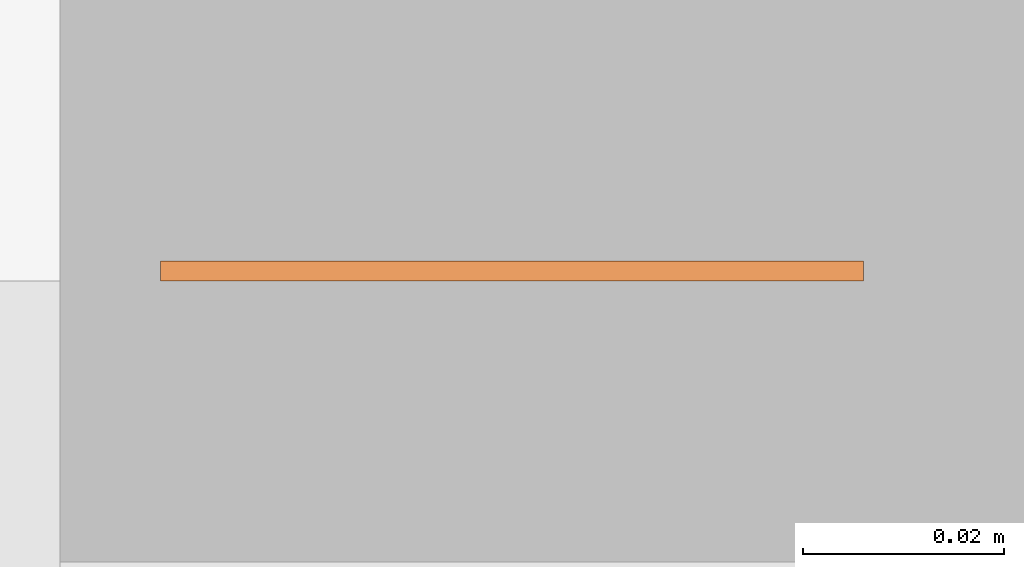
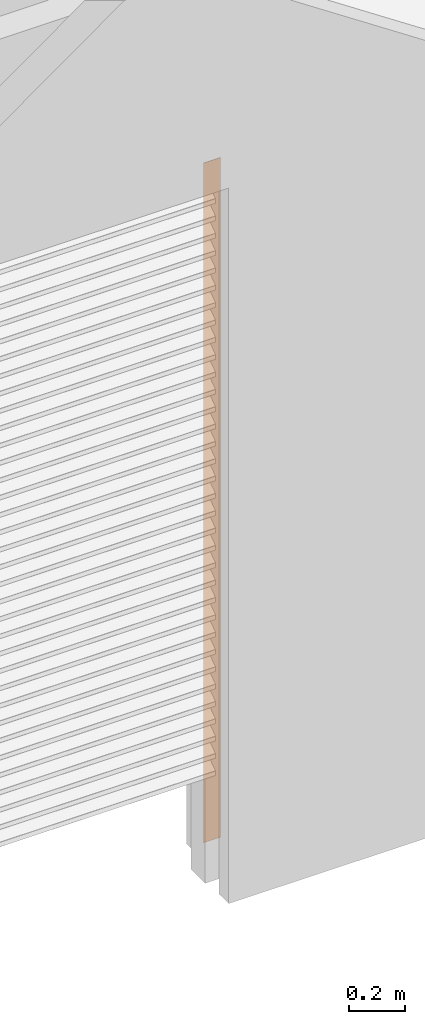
# One storey, part 145 of 165: 1 proxy.
"""IFC2X3 building model written with IfcOpenShell, lengths in millimetres."""

from ifc_helpers import new_model, entity, si_unit, converted_unit, derived_unit, money_unit, direction, frame, origin_with_axes, place, context, subcontext, project, spatial, faceted_brep, material, type_object, element, save


model = new_model("IFC2X3")

# Units and contexts
model_context = context("Model", 3, precision=0.01, world=origin_with_axes(), true_north=direction((0.0, 1.0)))
body_context = subcontext(model_context, "Body", "Model", "MODEL_VIEW")
ifc_project = project(units=[si_unit("LENGTHUNIT", "METRE", prefix="MILLI"), si_unit("AREAUNIT", "SQUARE_METRE"), si_unit("VOLUMEUNIT", "CUBIC_METRE"), converted_unit("PLANEANGLEUNIT", "DEGREE", entity("IfcPlaneAngleMeasure", 0.0174532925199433), si_unit("PLANEANGLEUNIT", "RADIAN"), dimensions=[0, 0, 0, 0, 0, 0, 0]), money_unit("EUR"), converted_unit("TIMEUNIT", "Year", entity("IfcTimeMeasure", 31556926.0), si_unit("TIMEUNIT", "SECOND"), dimensions=[0, 0, 1, 0, 0, 0, 0]), si_unit("MASSUNIT", "GRAM", prefix="KILO"), si_unit("THERMODYNAMICTEMPERATUREUNIT", "DEGREE_CELSIUS"), si_unit("LUMINOUSINTENSITYUNIT", "LUMEN"), si_unit("ENERGYUNIT", "JOULE", prefix="MEGA"), derived_unit("THERMALCONDUCTANCEUNIT", [(si_unit("POWERUNIT", "WATT"), 1), (si_unit("LENGTHUNIT", "METRE"), -1), (si_unit("THERMODYNAMICTEMPERATUREUNIT", "KELVIN"), -1)]), derived_unit("SPECIFICHEATCAPACITYUNIT", [(si_unit("ENERGYUNIT", "JOULE"), 1), (si_unit("MASSUNIT", "GRAM", prefix="KILO"), -1), (si_unit("THERMODYNAMICTEMPERATUREUNIT", "KELVIN"), -1)]), derived_unit("MASSDENSITYUNIT", [(si_unit("MASSUNIT", "GRAM", prefix="KILO"), 1), (si_unit("VOLUMEUNIT", "CUBIC_METRE"), -1)])], contexts=[model_context])

# Site, building, storey
site_placement = place(None, origin_with_axes())
site = spatial("IfcSite", under=ifc_project, at=site_placement, Name="Site", CompositionType="ELEMENT")
building_placement = place(site_placement, origin_with_axes())
building = spatial("IfcBuilding", under=site, at=building_placement, Name="Naam gebouw", CompositionType="ELEMENT")
storey_placement = place(building_placement, origin_with_axes())
storey = spatial("IfcBuildingStorey", under=building, at=storey_placement, Name="Begane grond", CompositionType="ELEMENT", Elevation=0.0)

# Proxy
ifc_material = material(Name="Steen - Baksteen")
building_element_proxy_type = type_object("IfcBuildingElementProxyType", Name="Steen - Baksteen 70", PredefinedType="NOTDEFINED")
proxy_placement = place(storey_placement, frame((13910.0, -250.0002238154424, -330.0000000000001), z_axis=(0.0, 0.0, 1.0), x_axis=(0.0, 1.0, 0.0)))
element("IfcBuildingElementProxy", 1, at=proxy_placement, inside=storey, type_object=building_element_proxy_type, material=ifc_material, Name="g2- Gebakken klei_Wand-x", context=body_context, shape_type="Brep", body=[
    faceted_brep([(177.9999999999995, 0.0, 2940.0), (177.9999999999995, -70.00000000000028, 2940.0), (180.0, -70.00000000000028, 2940.0), (180.0, 0.0, 2940.0), (177.9999999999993, -70.00000000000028, 0.0), (177.9999999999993, 0.0, 0.0), (180.0, -70.00000000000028, 0.0), (180.0, 0.0, 0.0)], [[[0, 1, 2, 3]], [[4, 1, 0, 5]], [[1, 4, 6, 2]], [[7, 3, 2, 6]], [[5, 0, 3, 7]], [[4, 5, 7, 6]]]),
])

save(model, "model.ifc")
